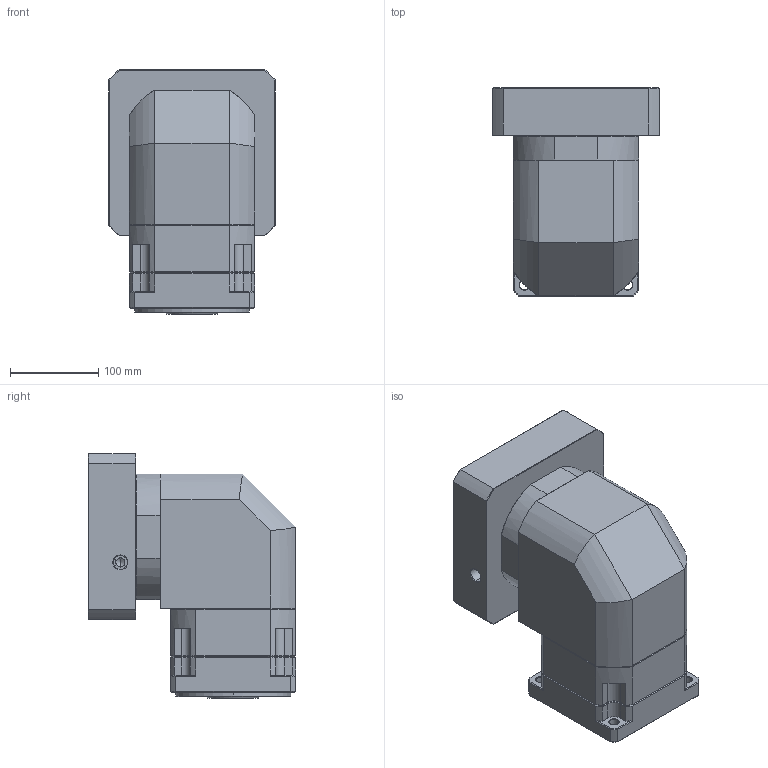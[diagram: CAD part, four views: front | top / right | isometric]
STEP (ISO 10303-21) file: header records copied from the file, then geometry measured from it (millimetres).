
FILE_DESCRIPTION (( 'STEP AP214' ), '1' );
FILE_NAME ('ZBR142A-K35-L1-P2-38-180-215-M12.step', '2023-09-02T07:15:58', ( '' ), ( '' ), 'SwSTEP 2.0', 'SolidWorks 2016', '' );
FILE_SCHEMA (( 'AUTOMOTIVE_DESIGN' ));
Length unit declared in the file: millimetre
Products named in the file (1): ZBR142A-K35-L1-P2-38-180-215-M12
Bounding box: 188 x 235 x 276.7 mm (x, y, z)
Volume: 5983012.6 mm3; surface area: 434639.1 mm2
Topology: 6 solids, 6 shells, 2231 faces, 5865 edges, 3740 vertices
Faces by surface type: plane 1113, bspline 403, cylinder 377, cone 318, torus 20
Entity records: 121574 total; most frequent: CARTESIAN_POINT 45157, ORIENTED_EDGE 11674, DIRECTION 9227, EDGE_CURVE 5837, LINE 3831, VECTOR 3831, VERTEX_POINT 3740, AXIS2_PLACEMENT_3D 2698
